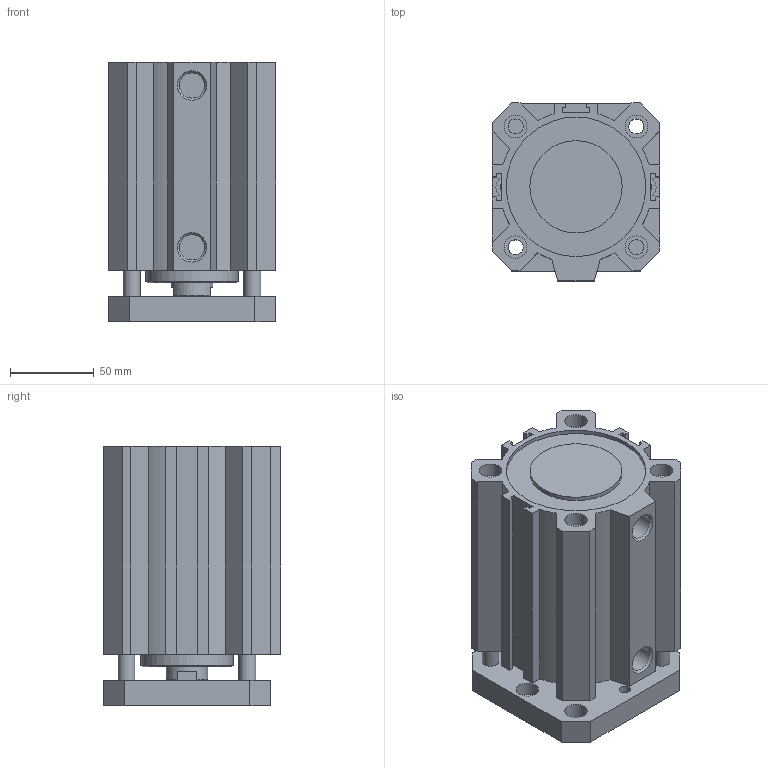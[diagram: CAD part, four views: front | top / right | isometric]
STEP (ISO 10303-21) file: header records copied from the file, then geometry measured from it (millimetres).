
FILE_DESCRIPTION(/* description */ (''),/* implementation_level */ '2;1');
FILE_NAME(/* name */ 'I:\Area Tecnica\Disegni\VARIE-3D\Componenti\1500\Ø80\15##_80_####_#\1501_80_0080_AR.stp',/* time_stamp */ '2016-08-24T14:13:28+02:00',/* author */ ('Maniean1'),/* organization */ ('Pneumax S.p.A.'),/* preprocessor_version */ 'ST-DEVELOPER v15.2',/* originating_system */ 'Autodesk Inventor 2014',/* authorisation */ '');
FILE_SCHEMA (('AUTOMOTIVE_DESIGN { 1 0 10303 214 3 1 1 }'));
Length unit declared in the file: millimetre
Products named in the file (3): C_1501_80_0080_AR; S_1501_80_0080_AR; 1501_80_0080_AR
Bounding box: 100 x 106 x 154.5 mm (x, y, z)
Volume: 814552.9 mm3; surface area: 194018.8 mm2
Topology: 2 solids, 2 shells, 139 faces, 341 edges, 228 vertices
Faces by surface type: plane 94, cylinder 40, cone 5
Full cylindrical faces by diameter (mm): 6.647 x2, 8.5 x2, 9 x4, 10 x4, 13.5 x10, 14.95 x2, 25 x2, 55 x2, 80 x2, 83.2 x2
Entity records: 4083 total; most frequent: CARTESIAN_POINT 674, DIRECTION 672, ORIENTED_EDGE 600, EDGE_CURVE 300, AXIS2_PLACEMENT_3D 232, VERTEX_POINT 222, EDGE_LOOP 216, LINE 208
